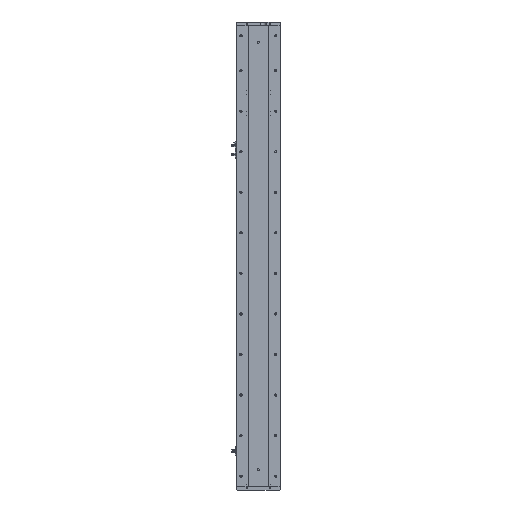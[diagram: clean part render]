
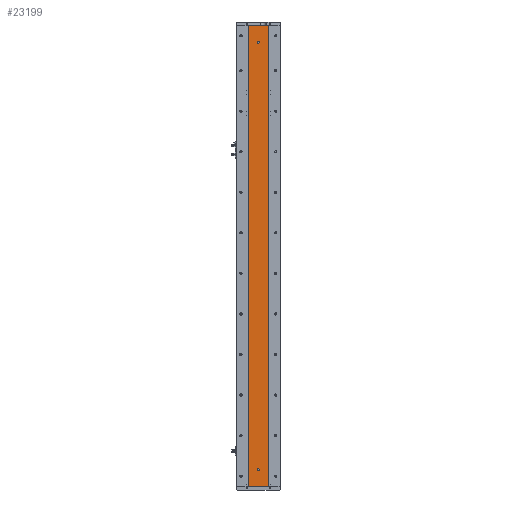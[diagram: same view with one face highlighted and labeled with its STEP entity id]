
A CAD part, left-side view. The second image highlights one B-rep face of the part: STEP entity #23199.
In plain terms, the highlighted planar face has unit normal (-1, 0, 0).
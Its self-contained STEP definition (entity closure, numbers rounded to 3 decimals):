
#341 = DIRECTION ( 'NONE',  ( 0., 0., -1. ) ) ;
#800 = DIRECTION ( 'NONE',  ( 0., -1., 0. ) ) ;
#1169 = DIRECTION ( 'NONE',  ( -1., 0., 0. ) ) ;
#1480 = AXIS2_PLACEMENT_3D ( 'NONE', #20729, #2104, #23836 ) ;
#1891 = VECTOR ( 'NONE', #16216, 1000. ) ;
#1977 = DIRECTION ( 'NONE',  ( 0., -1., 0. ) ) ;
#2104 = DIRECTION ( 'NONE',  ( 1., 0., 0. ) ) ;
#2193 = EDGE_CURVE ( 'NONE', #40351, #33683, #13781, .T. ) ;
#2631 = CARTESIAN_POINT ( 'NONE',  ( -24.994, 0., 50. ) ) ;
#3101 = EDGE_CURVE ( 'NONE', #5249, #25275, #20459, .T. ) ;
#3711 = EDGE_CURVE ( 'NONE', #33584, #4797, #35007, .T. ) ;
#4797 = VERTEX_POINT ( 'NONE', #17731 ) ;
#5094 = PLANE ( 'NONE',  #1480 ) ;
#5249 = VERTEX_POINT ( 'NONE', #29513 ) ;
#5291 = FACE_OUTER_BOUND ( 'NONE', #21277, .T. ) ;
#5741 = DIRECTION ( 'NONE',  ( 0., 0., 1. ) ) ;
#5926 = ORIENTED_EDGE ( 'NONE', *, *, #2193, .F. ) ;
#6069 = CIRCLE ( 'NONE', #27009, 3. ) ;
#6163 = ORIENTED_EDGE ( 'NONE', *, *, #24150, .F. ) ;
#6673 = ORIENTED_EDGE ( 'NONE', *, *, #16904, .F. ) ;
#10031 = VECTOR ( 'NONE', #800, 1000. ) ;
#11034 = DIRECTION ( 'NONE',  ( -1., 0., 0. ) ) ;
#12510 = EDGE_LOOP ( 'NONE', ( #34069, #6673 ) ) ;
#13781 = CIRCLE ( 'NONE', #33790, 3. ) ;
#14359 = CARTESIAN_POINT ( 'NONE',  ( -24.994, 29.785, 0. ) ) ;
#15282 = ORIENTED_EDGE ( 'NONE', *, *, #3101, .F. ) ;
#15385 = VECTOR ( 'NONE', #1977, 1000. ) ;
#16216 = DIRECTION ( 'NONE',  ( 0., 0., -1. ) ) ;
#16271 = CARTESIAN_POINT ( 'NONE',  ( -24.994, 0., 47. ) ) ;
#16339 = DIRECTION ( 'NONE',  ( -1., 0., 0. ) ) ;
#16904 = EDGE_CURVE ( 'NONE', #28473, #25392, #27496, .T. ) ;
#17056 = EDGE_CURVE ( 'NONE', #25392, #28473, #6069, .T. ) ;
#17731 = CARTESIAN_POINT ( 'NONE',  ( -24.994, 29.785, 0. ) ) ;
#18978 = CARTESIAN_POINT ( 'NONE',  ( -24.994, -29.785, 1365. ) ) ;
#19781 = CARTESIAN_POINT ( 'NONE',  ( -24.994, 0., 50. ) ) ;
#20459 = LINE ( 'NONE', #18978, #30697 ) ;
#20729 = CARTESIAN_POINT ( 'NONE',  ( -24.994, 29.785, 1365. ) ) ;
#20792 = ORIENTED_EDGE ( 'NONE', *, *, #36668, .F. ) ;
#21277 = EDGE_LOOP ( 'NONE', ( #37361, #15282, #6163, #33333 ) ) ;
#22083 = CARTESIAN_POINT ( 'NONE',  ( -24.994, 0., 1312. ) ) ;
#22448 = CARTESIAN_POINT ( 'NONE',  ( -24.994, 29.785, 1365. ) ) ;
#22903 = DIRECTION ( 'NONE',  ( 0., 0., 1. ) ) ;
#23199 = ADVANCED_FACE ( 'NONE', ( #38417, #29139, #5291 ), #5094, .F. ) ;
#23739 = CARTESIAN_POINT ( 'NONE',  ( -24.994, 29.785, 1365. ) ) ;
#23836 = DIRECTION ( 'NONE',  ( 0., 0., -1. ) ) ;
#24150 = EDGE_CURVE ( 'NONE', #33584, #5249, #34859, .T. ) ;
#24364 = DIRECTION ( 'NONE',  ( -1., 0., 0. ) ) ;
#24462 = CARTESIAN_POINT ( 'NONE',  ( -24.994, 0., 1318. ) ) ;
#25275 = VERTEX_POINT ( 'NONE', #39319 ) ;
#25392 = VERTEX_POINT ( 'NONE', #24462 ) ;
#27009 = AXIS2_PLACEMENT_3D ( 'NONE', #29663, #11034, #32804 ) ;
#27419 = CIRCLE ( 'NONE', #37606, 3. ) ;
#27496 = CIRCLE ( 'NONE', #27801, 3. ) ;
#27801 = AXIS2_PLACEMENT_3D ( 'NONE', #34996, #16339, #38127 ) ;
#28473 = VERTEX_POINT ( 'NONE', #22083 ) ;
#29139 = FACE_BOUND ( 'NONE', #39736, .T. ) ;
#29513 = CARTESIAN_POINT ( 'NONE',  ( -24.994, -29.785, 1365. ) ) ;
#29663 = CARTESIAN_POINT ( 'NONE',  ( -24.994, 0., 1315. ) ) ;
#30697 = VECTOR ( 'NONE', #341, 1000. ) ;
#32804 = DIRECTION ( 'NONE',  ( 0., 0., 1. ) ) ;
#33333 = ORIENTED_EDGE ( 'NONE', *, *, #3711, .T. ) ;
#33584 = VERTEX_POINT ( 'NONE', #23739 ) ;
#33683 = VERTEX_POINT ( 'NONE', #39823 ) ;
#33790 = AXIS2_PLACEMENT_3D ( 'NONE', #19781, #1169, #22903 ) ;
#34069 = ORIENTED_EDGE ( 'NONE', *, *, #17056, .F. ) ;
#34145 = EDGE_CURVE ( 'NONE', #4797, #25275, #39234, .T. ) ;
#34859 = LINE ( 'NONE', #38089, #10031 ) ;
#34996 = CARTESIAN_POINT ( 'NONE',  ( -24.994, 0., 1315. ) ) ;
#35007 = LINE ( 'NONE', #22448, #1891 ) ;
#36668 = EDGE_CURVE ( 'NONE', #33683, #40351, #27419, .T. ) ;
#37361 = ORIENTED_EDGE ( 'NONE', *, *, #34145, .T. ) ;
#37606 = AXIS2_PLACEMENT_3D ( 'NONE', #2631, #24364, #5741 ) ;
#38089 = CARTESIAN_POINT ( 'NONE',  ( -24.994, 29.785, 1365. ) ) ;
#38127 = DIRECTION ( 'NONE',  ( 0., 0., 1. ) ) ;
#38417 = FACE_BOUND ( 'NONE', #12510, .T. ) ;
#39234 = LINE ( 'NONE', #14359, #15385 ) ;
#39319 = CARTESIAN_POINT ( 'NONE',  ( -24.994, -29.785, 0. ) ) ;
#39736 = EDGE_LOOP ( 'NONE', ( #20792, #5926 ) ) ;
#39823 = CARTESIAN_POINT ( 'NONE',  ( -24.994, 0., 53. ) ) ;
#40351 = VERTEX_POINT ( 'NONE', #16271 ) ;
